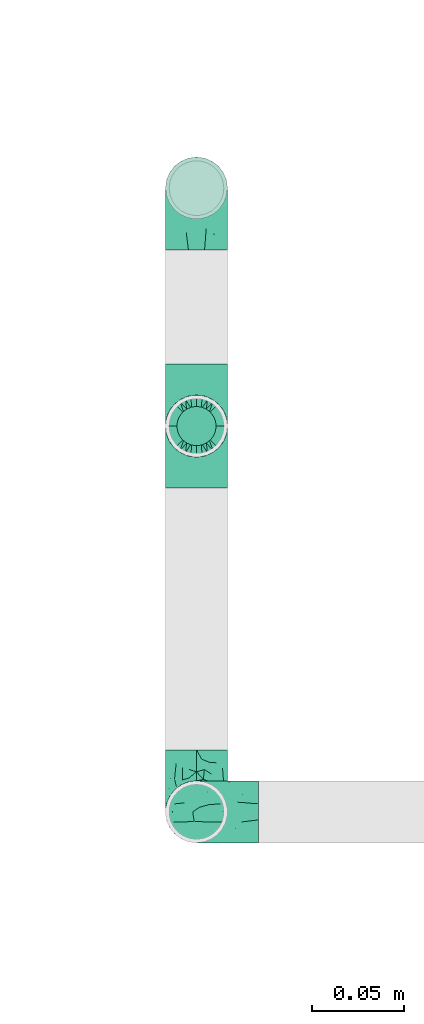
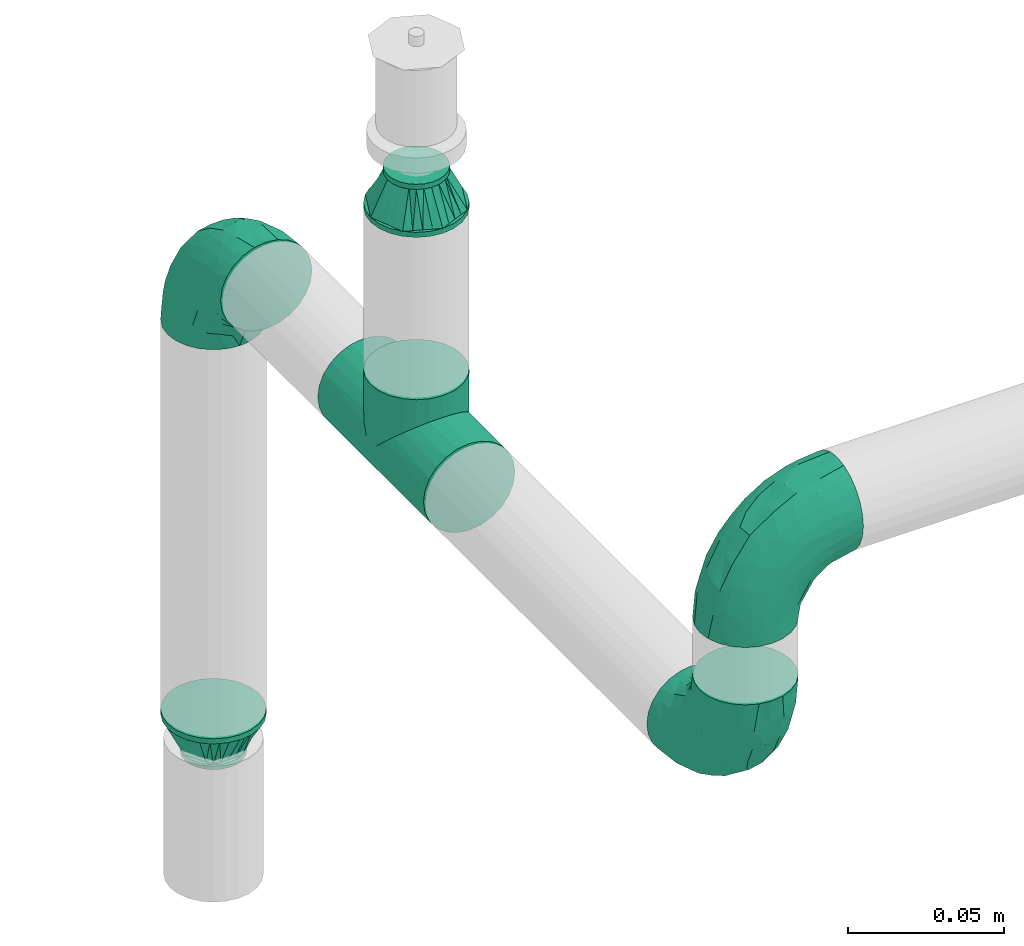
# One storey, part 117 of 157: 6 flow fittings.
"""IFC2X3 building model written with IfcOpenShell, lengths in millimetres."""

from ifc_helpers import new_model, entity, si_unit, converted_unit, derived_unit, direction, frame, origin_with_axes, place, context, subcontext, project, spatial, open_shell, surface_model, source, transform, mapped, type_object, element, save


model = new_model("IFC2X3")

# Units and contexts
model_context = context("Model", 3, precision=0.01, world=frame((0.0, 4.29681676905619e-09, 0.0)), true_north=direction((4.01073788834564e-13, 1.0)))
plan_context = context("Plan", 3, precision=0.01, world=frame((0.0, 4.29681676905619e-09, 0.0)), true_north=direction((4.01073788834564e-13, 1.0)))
body_context = subcontext(model_context, "Body", "Model", "MODEL_VIEW")
ifc_project = project(units=[converted_unit("PLANEANGLEUNIT", "DEGREE", entity("IfcPositiveLengthMeasure", 0.0174532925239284), si_unit("PLANEANGLEUNIT", "RADIAN"), dimensions=[0, 0, 0, 0, 0, 0, 0]), si_unit("AREAUNIT", "SQUARE_METRE"), si_unit("LENGTHUNIT", "METRE", prefix="MILLI"), si_unit("MASSUNIT", "GRAM", prefix="KILO"), si_unit("POWERUNIT", "WATT"), si_unit("PRESSUREUNIT", "PASCAL"), si_unit("FORCEUNIT", "NEWTON", prefix="KILO"), si_unit("ELECTRICCURRENTUNIT", "AMPERE"), si_unit("THERMODYNAMICTEMPERATUREUNIT", "DEGREE_CELSIUS"), si_unit("TIMEUNIT", "SECOND"), si_unit("VOLUMEUNIT", "CUBIC_METRE"), derived_unit("LINEARVELOCITYUNIT", [(si_unit("LENGTHUNIT", "METRE"), 1), (si_unit("TIMEUNIT", "SECOND"), -1)]), derived_unit("VOLUMETRICFLOWRATEUNIT", [(si_unit("VOLUMEUNIT", "CUBIC_METRE"), 1), (si_unit("TIMEUNIT", "SECOND"), -1)]), derived_unit("THERMALTRANSMITTANCEUNIT", [(si_unit("POWERUNIT", "WATT"), 1), (si_unit("THERMODYNAMICTEMPERATUREUNIT", "KELVIN"), -1), (si_unit("AREAUNIT", "SQUARE_METRE"), -1)])], contexts=[model_context, plan_context])

# Site, building, storey
site_placement = place(None, frame((0.0, -4.29681676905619e-09, 0.0), z_axis=(0.0, 0.0, 1.0), x_axis=(1.0, 0.0, 0.0)))
site = spatial("IfcSite", under=ifc_project, at=site_placement, CompositionType="ELEMENT")
building_placement = place(site_placement, frame((0.0, 4.29681676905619e-09, 0.0), z_axis=(0.0, 0.0, 1.0), x_axis=(1.0, 0.0, 0.0)))
building = spatial("IfcBuilding", under=site, at=building_placement, Name="mc-building", CompositionType="ELEMENT")
storey_placement = place(building_placement, frame((0.0, 0.0, 204000.0), z_axis=(0.0, 0.0, 1.0), x_axis=(1.0, 0.0, 0.0)))
storey = spatial("IfcBuildingStorey", under=building, at=storey_placement, Name="Nivå D", CompositionType="ELEMENT", Elevation=204000.0)

# Flow fittings
pipe_fitting_type_1 = type_object("IfcPipeFittingType", Name="magi_pipe_fe_tee_centric_90_NOR", PredefinedType="JUNCTION")
shared_shape_1 = source(origin_with_axes(), body_context, "Body", "SurfaceModel", [
    surface_model("IfcShellBasedSurfaceModel", [(-33.8, 4.37404, -16.32415), (-33.8, 0.0, -16.9), (-33.8, 16.32415, -4.37404), (-33.8, 8.45, -14.63583), (-33.8, 11.9501, -11.9501), (-33.8, 14.63583, -8.45), (-33.8, -16.9, 0.0), (-33.8, -11.9501, -11.9501), (-33.8, -14.63583, -8.45), (-33.8, -8.45, -14.63583), (-33.8, -4.37404, -16.32415), (-33.8, -16.32415, -4.37404), (-33.8, 14.63583, 8.45), (-33.8, 16.32415, 4.37404), (-33.8, -8.45, 14.63583), (-33.8, 8.45, 14.63583), (-33.8, 11.9501, 11.9501), (-33.8, 4.37404, 16.32415), (-33.8, 0.0, 16.9), (-33.8, -11.9501, 11.9501), (-33.8, -14.63583, 8.45), (-33.8, -16.32415, 4.37404), (-33.8, -4.37404, 16.32415), (-33.8, 16.9, 0.0), (33.8, 4.37404, -16.32415), (33.8, -16.9, 0.0), (33.8, 0.0, -16.9), (33.8, 14.63583, -8.45), (33.8, 8.45, -14.63583), (33.8, 16.32415, -4.37404), (33.8, 11.9501, -11.9501), (33.8, -16.32415, 4.37404), (33.8, -8.45, -14.63583), (33.8, -4.37404, -16.32415), (33.8, -11.9501, -11.9501), (33.8, -14.63583, -8.45), (33.8, -16.32415, -4.37404), (33.8, 16.32415, 4.37404), (33.8, 8.45, 14.63583), (33.8, 14.63583, 8.45), (33.8, 11.9501, 11.9501), (33.8, -8.45, 14.63583), (33.8, 4.37404, 16.32415), (33.8, -14.63583, 8.45), (33.8, -11.9501, 11.9501), (33.8, 0.0, 16.9), (33.8, -4.37404, 16.32415), (33.8, 16.9, 0.0), (16.28698, -16.28698, 4.51047), (16.9, -16.9, 0.0), (14.62704, -14.62704, 8.4652), (9.47213, -9.47213, 13.99602), (12.26343, -12.26343, 11.62834), (-16.9, -16.9, 0.0), (-16.28698, -16.28698, 4.51047), (-14.62704, -14.62704, 8.4652), (-12.26343, -12.26343, 11.62834), (-9.47213, -9.47213, 13.99602), (-6.42894, -6.42894, 15.62942), (6.42894, -6.42894, 15.62942), (3.24522, -3.24522, 16.58549), (0.0, 0.0, 16.9), (-3.24522, -3.24522, 16.58549), (3.24522, -3.24522, -16.58549), (0.0, 0.0, -16.9), (-3.24522, -3.24522, -16.58549), (-6.42894, -6.42894, -15.62942), (6.42894, -6.42894, -15.62942), (9.47213, -9.47213, -13.99602), (12.26343, -12.26343, -11.62834), (14.62704, -14.62704, -8.4652), (16.28698, -16.28698, -4.51047), (-9.47213, -9.47213, -13.99602), (-12.26343, -12.26343, -11.62834), (-16.28698, -16.28698, -4.51047), (-14.62704, -14.62704, -8.4652), (4.37404, -25.35, -16.32415), (-16.9, -25.35, 0.0), (0.0, -25.35, -16.9), (14.63583, -25.35, -8.45), (8.45, -25.35, -14.63583), (16.32415, -25.35, -4.37404), (11.9501, -25.35, -11.9501), (-11.9501, -25.35, -11.9501), (-8.45, -25.35, -14.63583), (-4.37404, -25.35, -16.32415), (-14.63583, -25.35, -8.45), (-16.32415, -25.35, -4.37404), (16.9, -25.35, 0.0), (8.45, -25.35, 14.63583), (16.32415, -25.35, 4.37404), (14.63583, -25.35, 8.45), (-8.45, -25.35, 14.63583), (11.9501, -25.35, 11.9501), (4.37404, -25.35, 16.32415), (-16.32415, -25.35, 4.37404), (-11.9501, -25.35, 11.9501), (-14.63583, -25.35, 8.45), (0.0, -25.35, 16.9), (-4.37404, -25.35, 16.32415)], [open_shell([[[0, 1, 2]], [[3, 0, 4]], [[0, 2, 5]], [[4, 0, 5]], [[6, 2, 1]], [[7, 8, 9]], [[1, 10, 9]], [[11, 6, 8]], [[1, 9, 8]], [[1, 8, 6]], [[6, 12, 2]], [[12, 13, 2]], [[14, 12, 6]], [[12, 14, 15]], [[16, 12, 15]], [[17, 15, 18]], [[19, 14, 20]], [[21, 20, 14]], [[22, 18, 14]], [[14, 6, 21]], [[14, 18, 15]], [[23, 2, 13]], [[24, 25, 26]], [[27, 24, 28]], [[27, 29, 24]], [[27, 28, 30]], [[31, 25, 24]], [[26, 32, 33]], [[26, 34, 32]], [[35, 25, 36]], [[35, 34, 26]], [[25, 35, 26]], [[24, 29, 31]], [[29, 37, 38]], [[38, 37, 39]], [[38, 31, 29]], [[38, 39, 40]], [[41, 38, 42]], [[43, 41, 44]], [[41, 43, 31]], [[41, 45, 46]], [[41, 31, 38]], [[42, 45, 41]], [[29, 47, 37]], [[31, 43, 48]], [[25, 31, 49]], [[49, 31, 48]], [[43, 50, 48]], [[44, 41, 51]], [[50, 43, 52]], [[51, 52, 44]], [[52, 43, 44]], [[53, 54, 21]], [[53, 21, 6]], [[21, 54, 20]], [[54, 55, 20]], [[56, 57, 19]], [[19, 20, 56]], [[19, 57, 14]], [[56, 20, 55]], [[14, 57, 58]], [[51, 41, 59]], [[60, 45, 61]], [[59, 46, 60]], [[46, 59, 41]], [[60, 46, 45]], [[61, 45, 42]], [[39, 37, 13]], [[16, 38, 40]], [[12, 40, 39]], [[42, 38, 15]], [[23, 37, 47]], [[62, 61, 18]], [[62, 22, 58]], [[22, 62, 18]], [[58, 22, 14]], [[61, 17, 18]], [[42, 17, 61]], [[15, 17, 42]], [[15, 38, 16]], [[12, 16, 40]], [[13, 12, 39]], [[37, 23, 13]], [[5, 27, 30]], [[23, 47, 29]], [[30, 28, 3]], [[27, 2, 29]], [[26, 33, 63]], [[26, 64, 24]], [[64, 26, 63]], [[28, 24, 0]], [[64, 0, 24]], [[4, 30, 3]], [[2, 27, 5]], [[5, 30, 4]], [[2, 23, 29]], [[65, 66, 10]], [[1, 0, 64]], [[1, 65, 10]], [[66, 9, 10]], [[0, 3, 28]], [[1, 64, 65]], [[63, 33, 67]], [[32, 34, 68]], [[69, 68, 34]], [[35, 70, 69]], [[69, 34, 35]], [[32, 68, 67]], [[36, 25, 49]], [[36, 71, 35]], [[71, 36, 49]], [[35, 71, 70]], [[72, 9, 66]], [[72, 7, 9]], [[7, 72, 73]], [[7, 73, 8]], [[74, 53, 11]], [[75, 74, 8]], [[74, 11, 8]], [[11, 53, 6]], [[75, 8, 73]], [[32, 67, 33]], [[76, 77, 78]], [[79, 76, 80]], [[79, 81, 76]], [[79, 80, 82]], [[77, 76, 81]], [[78, 83, 84]], [[84, 85, 78]], [[86, 77, 87]], [[83, 78, 86]], [[77, 86, 78]], [[81, 88, 77]], [[89, 88, 90]], [[89, 90, 91]], [[92, 77, 89]], [[89, 91, 93]], [[92, 89, 94]], [[95, 96, 97]], [[96, 95, 92]], [[92, 98, 99]], [[95, 77, 92]], [[94, 98, 92]], [[89, 77, 88]], [[77, 95, 53]], [[54, 53, 95]], [[97, 96, 56]], [[96, 92, 57]], [[95, 97, 54]], [[58, 92, 99]], [[55, 54, 97]], [[56, 55, 97]], [[58, 57, 92]], [[98, 61, 62]], [[58, 99, 62]], [[56, 96, 57]], [[62, 99, 98]], [[94, 60, 98]], [[89, 59, 94]], [[91, 90, 48]], [[52, 93, 91]], [[93, 51, 89]], [[49, 90, 88]], [[59, 60, 94]], [[51, 59, 89]], [[49, 48, 90]], [[50, 52, 91]], [[48, 50, 91]], [[51, 93, 52]], [[98, 60, 61]], [[88, 81, 49]], [[71, 49, 81]], [[79, 82, 69]], [[82, 80, 68]], [[81, 79, 71]], [[67, 80, 76]], [[70, 71, 79]], [[69, 70, 79]], [[67, 68, 80]], [[78, 64, 63]], [[67, 76, 63]], [[69, 82, 68]], [[63, 76, 78]], [[85, 65, 78]], [[84, 66, 85]], [[86, 87, 74]], [[86, 73, 83]], [[72, 84, 83]], [[53, 87, 77]], [[66, 65, 85]], [[72, 66, 84]], [[53, 74, 87]], [[75, 73, 86]], [[74, 75, 86]], [[72, 83, 73]], [[78, 65, 64]]])]),
])
flow_fitting_placement = place(storey_placement, frame((527500.0, 416470.2949, 2600.0), z_axis=(-1.0, 0.0, 0.0), x_axis=(0.0, 1.0, 0.0)))
element("IfcFlowFitting", 1, at=flow_fitting_placement, inside=storey, type_object=pipe_fitting_type_1, Name="magi_pipe_fe_tee_centric_90_NOR", context=body_context, shape_type="MappedRepresentation", body=[
    mapped(shared_shape_1, transform((0.0, 0.0, 0.0), scale=1.0)),
])
pipe_fitting_type_2 = type_object("IfcPipeFittingType", Name="magi_pipe_fe_elbow_short_001", PredefinedType="BEND")
shared_shape_2 = source(origin_with_axes(), body_context, "Body", "SurfaceModel", [
    surface_model("IfcShellBasedSurfaceModel", [(-33.8, 8.45, -14.63583), (-33.8, 4.37404, -16.32415), (-33.8, 11.9501, -11.9501), (-33.8, -11.9501, -11.9501), (-33.8, -14.63583, -8.45), (-33.8, -8.45, -14.63583), (-33.8, 0.0, -16.9), (-33.8, -4.37404, -16.32415), (-33.8, -4.37404, 16.32415), (-33.8, 0.0, 16.9), (-33.8, -8.45, 14.63583), (-33.8, 16.32415, -4.37404), (-33.8, 14.63583, -8.45), (-33.8, -16.32415, -4.37404), (-33.8, -16.9, 0.0), (-33.8, -16.32415, 4.37404), (-33.8, 11.9501, 11.9501), (-33.8, 14.63583, 8.45), (-33.8, 16.32415, 4.37404), (-33.8, 4.37404, 16.32415), (-33.8, 8.45, 14.63583), (-33.8, -14.63583, 8.45), (-33.8, -11.9501, 11.9501), (-33.8, 16.9, 0.0), (-11.9501, 33.8, -11.9501), (0.0, 33.8, -16.9), (-4.37404, 33.8, -16.32415), (-8.45, 33.8, -14.63583), (-14.63583, 33.8, -8.45), (-16.32415, 33.8, -4.37404), (14.63583, 33.8, -8.45), (8.45, 33.8, 14.63583), (16.32415, 33.8, -4.37404), (8.45, 33.8, -14.63583), (11.9501, 33.8, -11.9501), (4.37404, 33.8, -16.32415), (16.32415, 33.8, 4.37404), (16.9, 33.8, 0.0), (-11.9501, 33.8, 11.9501), (-16.32415, 33.8, 4.37404), (-14.63583, 33.8, 8.45), (-8.45, 33.8, 14.63583), (-4.37404, 33.8, 16.32415), (11.9501, 33.8, 11.9501), (14.63583, 33.8, 8.45), (0.0, 33.8, 16.9), (4.37404, 33.8, 16.32415), (-16.9, 33.8, 0.0), (-24.79389, -13.12945, 9.48721), (-22.19287, -9.75018, 12.59315), (-24.09897, -14.97035, 0.0), (-14.93934, -10.76256, 8.5297), (-22.46095, -14.75051, 5.27077), (14.75051, 22.46094, 5.27077), (11.9251, 13.23888, 4.33236), (13.04069, 14.39795, 0.0), (7.71387, 13.68847, 11.55891), (9.75018, 22.19287, 12.59315), (4.10169, 13.0571, 14.04018), (-24.84007, -6.39063, 15.2048), (-25.81779, -2.23879, 16.61097), (-23.66549, 2.59054, 16.87119), (-26.50418, 14.06512, 11.08152), (-24.21253, 17.66365, 7.72657), (-29.58514, 15.86957, 7.00283), (-6.17382, -7.5455, 0.0), (-13.23888, -11.9251, 4.33236), (-14.39795, -13.04069, 0.0), (-17.81434, 18.87373, 11.97104), (-6.30846, 29.15138, 15.82987), (-2.31622, 25.28002, 16.85849), (-29.23923, 10.23435, 13.77053), (-1.45439, -2.85688, 7.61475), (-0.28326, 0.34872, 10.09509), (-5.74484, -4.04709, 10.4122), (-4.41137, 11.31918, 16.59407), (-8.39727, 3.10034, 15.7812), (-1.72649, 9.1306, 15.53089), (-17.39909, 24.75344, 7.64977), (-26.19233, 20.0512, 0.0), (-28.14518, 17.29657, 4.25857), (-26.05147, 6.6281, 15.96447), (-5.87354, 16.61944, 16.86968), (-12.51807, 12.51807, 16.48937), (-10.06312, 7.38516, 16.81295), (-3.01882, 3.01882, 13.81718), (-13.0571, -4.10169, 14.04018), (-16.82553, -0.15166, 16.38038), (10.76256, 14.93934, 8.5297), (13.12945, 24.79389, 9.48721), (6.39063, 24.84007, 15.2048), (2.23879, 25.81779, 16.61097), (-13.68847, -7.71387, 11.55891), (14.97035, 24.09897, 0.0), (-7.30894, 22.89991, 16.09489), (-10.67958, 26.17414, 14.008), (-12.78295, 18.26924, 15.06066), (-13.88562, 22.45231, 12.93244), (-18.04944, 15.16501, 14.04434), (-23.11658, 20.08178, 4.02986), (-21.84989, 21.84989, 0.0), (-18.55817, 25.48277, 3.93065), (-13.95142, 26.94732, 11.03289), (-18.57098, 7.23906, 16.59756), (-16.58335, 4.14122, 16.89279), (-17.96666, 11.46709, 15.63151), (-9.84453, 17.54304, 16.18938), (0.15166, 16.82553, 16.38038), (-23.27207, 11.47201, 14.23154), (3.84842, 5.86994, 10.70473), (-8.0212, -7.54413, 7.93275), (1.00345, -2.19508, 4.57414), (5.13203, 3.01004, 5.90201), (5.24161, 1.7543, 2.53265), (8.70457, 7.04947, 3.99182), (-20.0512, 26.19233, 0.0), (8.4852, 8.76699, 7.09296), (-4.55488, -6.72064, 4.90681), (2.05031, -2.05031, 0.0), (7.5455, 6.17382, 0.0), (-26.75399, 2.1369, -16.845), (-14.61995, 24.73803, -11.27736), (-28.45274, -13.45335, -9.81895), (-26.00469, 6.63555, -15.96645), (-23.06726, 20.04573, -4.26202), (-13.80647, -4.26506, -14.17873), (-14.67501, -0.21081, -16.07388), (-6.7902, -0.2828, -13.8478), (-24.53586, 11.08096, -14.13417), (-26.72048, 14.00837, -11.05776), (10.0967, 24.44989, -12.75976), (5.83237, 21.40218, -15.03047), (6.66249, 28.54238, -15.38093), (-20.38182, 15.48705, -12.74596), (12.53268, 21.23441, -9.15363), (12.54494, 15.67504, -5.54878), (9.7522, 12.89279, -8.66343), (-15.65186, 19.64213, -13.01327), (-12.03528, 20.66498, -14.67665), (-15.61907, 15.61906, -14.83879), (-25.56551, -15.26206, 0.0), (-24.65452, -15.12934, -5.50955), (13.45335, 28.45274, -9.81895), (15.12934, 24.65452, -5.50955), (-7.35442, -8.31014, -5.65563), (-15.67504, -12.54494, -5.54878), (-24.44989, -10.0967, -12.75976), (0.16522, 0.41303, -9.71728), (-5.70658, -5.33066, -8.89288), (-5.13869, -2.37198, -11.53565), (-21.23441, -12.53268, -9.15363), (0.71146, 7.93863, -14.09382), (0.21081, 14.67501, -16.07388), (3.49291, 14.42772, -14.76381), (-24.89911, -2.13088, -16.591), (-28.54238, -6.66249, -15.38093), (-18.44386, -7.71663, -13.26957), (2.13088, 24.89911, -16.591), (-28.64342, 17.44413, -2.89318), (1.70017, -1.28722, -5.09504), (-16.57067, 26.81947, -7.36596), (-17.69055, 27.4263, -3.76405), (-12.89279, -9.7522, -8.66343), (-5.96611, 5.96611, -15.95814), (-20.53709, 20.09345, -8.28985), (-2.1369, 26.75399, -16.845), (-6.89872, 24.58781, -16.02578), (-10.60739, 26.53157, -13.98044), (-21.40218, -5.83237, -15.03047), (2.93192, 5.89627, -11.55917), (6.89393, 12.61842, -11.82233), (5.58056, 5.95325, -8.79455), (-3.99512, 18.61798, -16.89635), (8.31014, 7.35442, -5.65563), (-9.1383, 9.86148, -16.89041), (-9.99983, 16.02119, -16.39699), (-16.68576, 9.78031, -16.34199), (-27.01915, 16.61158, -7.12979), (15.26206, 25.56551, 0.0), (-18.61798, 3.99512, -16.89635), (-19.37495, 27.82495, 0.0), (-12.61842, -6.89393, -11.82233), (-18.84705, 19.14018, -10.96545)], [open_shell([[[0, 1, 2]], [[3, 4, 5]], [[6, 7, 5]], [[8, 9, 10]], [[1, 6, 2]], [[11, 12, 2]], [[4, 2, 6]], [[2, 13, 10]], [[5, 4, 6]], [[2, 4, 13]], [[14, 15, 13]], [[11, 2, 16]], [[11, 17, 18]], [[11, 16, 17]], [[19, 20, 16]], [[16, 2, 10]], [[19, 16, 10]], [[21, 22, 15]], [[22, 13, 15]], [[22, 10, 13]], [[10, 9, 19]], [[11, 18, 23]], [[24, 25, 26]], [[24, 26, 27]], [[24, 28, 29]], [[25, 24, 30]], [[31, 32, 24]], [[33, 30, 34]], [[33, 35, 25]], [[25, 30, 33]], [[32, 30, 24]], [[32, 36, 37]], [[38, 24, 29]], [[39, 40, 29]], [[40, 38, 29]], [[38, 41, 42]], [[38, 31, 24]], [[31, 38, 42]], [[36, 43, 44]], [[36, 32, 43]], [[31, 45, 46]], [[32, 31, 43]], [[42, 45, 31]], [[39, 29, 47]], [[22, 48, 49]], [[15, 14, 50]], [[51, 48, 52]], [[53, 54, 55]], [[48, 22, 21]], [[15, 52, 21]], [[56, 57, 58]], [[49, 10, 22]], [[49, 59, 10]], [[9, 60, 61]], [[62, 63, 64]], [[65, 66, 67]], [[57, 43, 31]], [[62, 68, 63]], [[42, 69, 70]], [[20, 71, 16]], [[8, 60, 9]], [[72, 73, 74]], [[75, 76, 77]], [[16, 62, 17]], [[40, 39, 78]], [[79, 23, 80]], [[64, 18, 17]], [[9, 61, 19]], [[19, 81, 20]], [[82, 83, 84]], [[74, 85, 86]], [[59, 86, 87]], [[88, 89, 57]], [[90, 31, 46]], [[44, 53, 36]], [[46, 45, 91]], [[54, 53, 88]], [[44, 89, 53]], [[92, 86, 49]], [[89, 44, 43]], [[10, 59, 8]], [[53, 55, 93]], [[93, 36, 53]], [[66, 52, 67]], [[94, 82, 70]], [[95, 96, 94]], [[97, 98, 96]], [[79, 99, 100]], [[41, 38, 95]], [[101, 100, 99]], [[68, 78, 63]], [[42, 41, 69]], [[23, 18, 80]], [[95, 94, 69]], [[78, 101, 99]], [[38, 102, 95]], [[70, 45, 42]], [[97, 95, 102]], [[15, 50, 52]], [[90, 57, 31]], [[57, 90, 58]], [[81, 19, 61]], [[103, 104, 84]], [[105, 81, 103]], [[38, 40, 102]], [[106, 96, 83]], [[94, 106, 82]], [[91, 70, 107]], [[71, 62, 16]], [[62, 108, 98]], [[86, 59, 49]], [[67, 52, 50]], [[60, 59, 87]], [[92, 49, 51]], [[86, 85, 76]], [[91, 90, 46]], [[37, 36, 93]], [[107, 77, 58]], [[107, 58, 90]], [[58, 85, 109]], [[110, 74, 92]], [[72, 74, 110]], [[66, 51, 52]], [[72, 111, 112]], [[113, 114, 112]], [[56, 88, 57]], [[52, 48, 21]], [[49, 48, 51]], [[57, 89, 43]], [[53, 89, 88]], [[103, 81, 61]], [[71, 81, 108]], [[18, 64, 80]], [[63, 78, 99]], [[47, 115, 101]], [[101, 115, 100]], [[40, 78, 102]], [[68, 102, 78]], [[97, 96, 95]], [[105, 98, 108]], [[103, 84, 83]], [[107, 70, 82]], [[76, 84, 87]], [[82, 84, 75]], [[70, 91, 45]], [[90, 91, 107]], [[59, 60, 8]], [[61, 60, 87]], [[73, 85, 74]], [[109, 112, 116]], [[103, 61, 104]], [[105, 103, 83]], [[96, 105, 83]], [[81, 105, 108]], [[96, 98, 105]], [[62, 98, 68]], [[61, 87, 104]], [[87, 84, 104]], [[86, 76, 87]], [[77, 76, 85]], [[58, 77, 85]], [[75, 77, 107]], [[82, 75, 107]], [[76, 75, 84]], [[81, 71, 20]], [[62, 71, 108]], [[95, 69, 41]], [[70, 69, 94]], [[62, 64, 17]], [[80, 63, 99]], [[63, 80, 64]], [[80, 99, 79]], [[66, 65, 117]], [[110, 66, 117]], [[112, 114, 116]], [[118, 117, 65]], [[110, 92, 51]], [[112, 111, 113]], [[119, 55, 54]], [[74, 86, 92]], [[58, 109, 56]], [[116, 56, 109]], [[66, 110, 51]], [[72, 110, 117]], [[111, 72, 117]], [[73, 112, 109]], [[117, 118, 111]], [[113, 111, 118]], [[118, 119, 113]], [[114, 119, 54]], [[119, 114, 113]], [[116, 54, 88]], [[54, 116, 114]], [[116, 88, 56]], [[112, 73, 72]], [[85, 73, 109]], [[78, 39, 101]], [[47, 101, 39]], [[102, 68, 97]], [[97, 68, 98]], [[82, 106, 83]], [[94, 96, 106]], [[1, 120, 6]], [[28, 24, 121]], [[3, 122, 4]], [[0, 123, 1]], [[100, 124, 79]], [[125, 126, 127]], [[128, 2, 129]], [[130, 131, 132]], [[128, 129, 133]], [[134, 135, 136]], [[137, 138, 139]], [[128, 0, 2]], [[67, 140, 141]], [[134, 142, 143]], [[141, 13, 4]], [[144, 65, 145]], [[146, 3, 5]], [[147, 148, 149]], [[145, 141, 150]], [[151, 152, 153]], [[154, 7, 6]], [[5, 155, 146]], [[150, 146, 156]], [[155, 5, 7]], [[143, 135, 134]], [[35, 157, 25]], [[23, 79, 158]], [[148, 159, 144]], [[160, 161, 29]], [[145, 162, 144]], [[163, 152, 151]], [[29, 28, 160]], [[121, 164, 160]], [[33, 34, 130]], [[25, 165, 26]], [[26, 165, 166]], [[142, 34, 30]], [[24, 27, 167]], [[124, 161, 164]], [[157, 35, 132]], [[155, 154, 168]], [[123, 0, 128]], [[169, 170, 171]], [[172, 157, 152]], [[26, 166, 27]], [[132, 35, 33]], [[142, 130, 34]], [[168, 154, 126]], [[136, 135, 173]], [[133, 137, 139]], [[2, 12, 129]], [[170, 131, 130]], [[30, 32, 143]], [[172, 174, 175]], [[176, 123, 128]], [[158, 177, 11]], [[135, 55, 119]], [[167, 27, 166]], [[175, 166, 172]], [[137, 167, 138]], [[122, 141, 4]], [[140, 14, 13]], [[32, 37, 178]], [[170, 130, 134]], [[152, 157, 131]], [[165, 157, 172]], [[153, 170, 151]], [[152, 163, 174]], [[168, 125, 156]], [[122, 146, 150]], [[120, 154, 6]], [[179, 174, 126]], [[179, 126, 154]], [[126, 163, 127]], [[162, 145, 150]], [[140, 13, 141]], [[32, 178, 143]], [[55, 143, 178]], [[177, 129, 12]], [[128, 133, 139]], [[176, 128, 139]], [[120, 123, 179]], [[121, 160, 28]], [[161, 100, 180]], [[166, 175, 138]], [[121, 24, 167]], [[161, 47, 29]], [[79, 124, 158]], [[124, 164, 177]], [[161, 124, 100]], [[136, 171, 170]], [[127, 163, 151]], [[147, 171, 159]], [[148, 144, 162]], [[127, 151, 169]], [[127, 181, 125]], [[129, 177, 164]], [[12, 11, 177]], [[159, 65, 144]], [[67, 141, 145]], [[143, 55, 135]], [[135, 119, 173]], [[123, 120, 1]], [[154, 120, 179]], [[157, 165, 25]], [[166, 165, 172]], [[172, 152, 174]], [[176, 139, 175]], [[126, 174, 163]], [[176, 174, 179]], [[174, 176, 175]], [[123, 176, 179]], [[150, 181, 162]], [[127, 149, 181]], [[181, 148, 162]], [[159, 148, 147]], [[171, 136, 173]], [[170, 134, 136]], [[159, 171, 173]], [[171, 147, 169]], [[169, 147, 149]], [[151, 170, 169]], [[164, 182, 129]], [[182, 121, 137]], [[181, 149, 148]], [[169, 149, 127]], [[182, 137, 133]], [[167, 137, 121]], [[166, 138, 167]], [[175, 139, 138]], [[129, 182, 133]], [[121, 182, 164]], [[161, 160, 164]], [[47, 161, 180]], [[177, 158, 124]], [[23, 158, 11]], [[130, 132, 33]], [[157, 132, 131]], [[143, 142, 30]], [[130, 142, 134]], [[154, 155, 7]], [[146, 155, 168]], [[146, 122, 3]], [[141, 122, 150]], [[152, 131, 153]], [[159, 119, 118]], [[67, 145, 65]], [[170, 153, 131]], [[119, 159, 173]], [[159, 118, 65]], [[156, 125, 181]], [[126, 125, 168]], [[150, 156, 181]], [[168, 156, 146]]])]),
])
for number, where, z_axis, x_axis, name in (
    (2, (527500.0, 416600.00006, 2600.0), (1.0, 0.0, 0.0), (0.0, 0.0, 1.0), "magi_pipe_fe_elbow_short_001"),
    (3, (527500.0, 416260.00006, 2600.0), (-1.0, 0.0, 0.0), (0.0, -1.0, 0.0), "magi_pipe_fe_elbow_short_001"),
    (4, (527500.0, 416260.00006, 2690.0), (0.0, 1.0, 0.0), (0.0, 0.0, 1.0), "magi_pipe_fe_elbow_short_001"),
):
    element("IfcFlowFitting", number, at=place(storey_placement, frame(where, z_axis=z_axis, x_axis=x_axis)), inside=storey, type_object=pipe_fitting_type_2, Name=name, context=body_context, shape_type="MappedRepresentation", body=[
        mapped(shared_shape_2, transform((0.0, 0.0, 0.0), scale=1.0)),
    ])
pipe_fitting_type_3 = type_object("IfcPipeFittingType", Name="magi_pipe_fe_reducer_centric_short_NOR", PredefinedType="TRANSITION")
shared_shape_3 = source(origin_with_axes(), body_context, "Body", "SurfaceModel", [
    surface_model("IfcShellBasedSurfaceModel", [(-2.0, -7.56604, -7.56604), (-2.0, -10.33541, -2.76936), (-2.0, -5.35, -9.26647), (-2.0, 5.35, -9.26647), (-2.0, 10.33541, -2.76936), (-2.0, 7.56604, -7.56604), (12.4, 11.9501, 11.9501), (12.4, 0.0, 16.9), (12.4, 11.9501, -11.9501), (12.4, 16.9, 0.0), (0.0, -10.7, 0.0), (0.0, -5.35, 9.26647), (0.0, -5.35, -9.26647), (0.0, 10.7, 0.0), (12.4, 15.66253, -2.98753), (12.4, 8.96258, -13.18758), (0.0, 6.6875, -6.94985), (12.4, -15.66253, -2.98753), (12.4, -16.9, 0.0), (12.4, 5.97505, -14.42505), (0.0, 5.35, -9.26647), (12.4, 14.42505, -5.97505), (0.0, 8.025, -4.63324), (0.0, 9.3625, -2.31662), (0.0, -9.3625, -2.31662), (0.0, -8.025, -4.63324), (12.4, -14.42505, -5.97505), (12.4, 13.18758, -8.96258), (12.4, -13.18758, -8.96258), (12.4, -11.9501, -11.9501), (0.0, -6.6875, -6.94985), (12.4, -8.96258, -13.18758), (12.4, -5.97505, -14.42505), (12.4, -15.66253, 2.98753), (12.4, -8.96258, 13.18758), (0.0, -6.6875, 6.94985), (12.4, -11.9501, 11.9501), (12.4, 15.66253, 2.98753), (12.4, -5.97505, 14.42505), (12.4, -14.42505, 5.97505), (0.0, -8.025, 4.63324), (0.0, -9.3625, 2.31662), (0.0, 9.3625, 2.31662), (0.0, 8.025, 4.63324), (12.4, 14.42505, 5.97505), (12.4, -13.18758, 8.96258), (12.4, 13.18758, 8.96258), (0.0, 6.6875, 6.94985), (12.4, 8.96258, 13.18758), (0.0, 5.35, 9.26647), (12.4, 5.97505, 14.42505), (14.4, 4.37404, -16.32415), (14.4, 8.45, -14.63583), (14.4, 11.9501, -11.9501), (14.4, -8.45, -14.63583), (14.4, 16.32415, -4.37404), (14.4, 16.32415, 4.37404), (14.4, 14.63583, -8.45), (14.4, 0.0, -16.9), (14.4, -4.37404, -16.32415), (14.4, -11.9501, -11.9501), (14.4, -16.32415, -4.37404), (14.4, -14.63583, -8.45), (14.4, -16.32415, 4.37404), (14.4, 16.9, 0.0), (14.4, 14.63583, 8.45), (14.4, 11.9501, 11.9501), (14.4, 4.37404, 16.32415), (14.4, 8.45, 14.63583), (14.4, 0.0, 16.9), (14.4, -14.63583, 8.45), (14.4, -16.9, 0.0), (14.4, -8.45, 14.63583), (14.4, -11.9501, 11.9501), (14.4, -4.37404, 16.32415), (12.4, 4.37404, 16.32415), (12.4, -14.63583, 8.45), (12.4, 16.32415, 4.37404), (12.4, 8.45, 14.63583), (12.4, 14.63583, 8.45), (12.4, -8.45, 14.63583), (12.4, -4.37404, 16.32415), (12.4, -16.32415, 4.37404), (12.4, -16.32415, -4.37404), (12.4, -8.45, -14.63583), (12.4, 16.32415, -4.37404), (12.4, 14.63583, -8.45), (12.4, 8.45, -14.63583), (12.4, 4.37404, -16.32415), (12.4, 0.0, -16.9), (12.4, -14.63583, -8.45), (12.4, -4.37404, -16.32415), (-2.0, 2.76936, 10.33541), (-2.0, 0.0, 10.7), (-2.0, 5.35, 9.26647), (-2.0, 7.56604, 7.56604), (-2.0, 9.26647, 5.35), (-2.0, 10.33541, 2.76936), (-2.0, -10.33541, 2.76936), (-2.0, -2.76936, 10.33541), (-2.0, -7.56604, 7.56604), (-2.0, -5.35, 9.26647), (-2.0, -9.26647, 5.35), (-2.0, -10.7, 0.0), (-2.0, 9.26647, -5.35), (-2.0, 2.76936, -10.33541), (-2.0, -9.26647, -5.35), (-2.0, 0.0, -10.7), (-2.0, -2.76936, -10.33541), (-2.0, 10.7, 0.0), (0.0, 0.0, -10.7), (0.0, 2.76936, -10.33541), (0.0, 10.33541, -2.76936), (0.0, 7.56604, -7.56604), (0.0, -10.33541, -2.76936), (0.0, 9.26647, -5.35), (0.0, 0.0, 10.7), (0.0, -2.76936, -10.33541), (0.0, -7.56604, -7.56604), (0.0, -9.26647, -5.35), (0.0, 10.33541, 2.76936), (0.0, 9.26647, 5.35), (0.0, 7.56604, 7.56604), (0.0, 2.76936, 10.33541), (0.0, -7.56604, 7.56604), (0.0, -10.33541, 2.76936), (0.0, -9.26647, 5.35), (0.0, -2.76936, 10.33541), (0.0, 2.675, -9.26647), (0.0, -2.675, -9.26647), (12.4, 2.98753, -15.66253), (0.0, 0.0, -9.26647), (12.4, -2.98753, -15.66253), (0.0, -2.675, 9.26647), (0.0, 2.675, 9.26647), (12.4, -2.98753, 15.66253), (0.0, 0.0, 9.26647), (12.4, 2.98753, 15.66253)], [open_shell([[[0, 1, 2]], [[3, 4, 5]], [[6, 7, 8]], [[8, 9, 6]], [[10, 11, 12]], [[13, 9, 14]], [[15, 16, 8]], [[17, 18, 10]], [[15, 19, 20]], [[21, 22, 23]], [[24, 25, 26]], [[22, 21, 27]], [[28, 26, 25]], [[29, 30, 31]], [[12, 32, 31]], [[10, 18, 33]], [[34, 35, 36]], [[37, 9, 13]], [[34, 38, 11]], [[39, 40, 41]], [[42, 43, 44]], [[40, 39, 45]], [[46, 44, 43]], [[6, 47, 48]], [[49, 50, 48]], [[51, 52, 53]], [[54, 51, 53]], [[53, 55, 56]], [[55, 53, 57]], [[53, 56, 54]], [[58, 54, 59]], [[58, 51, 54]], [[60, 61, 62]], [[61, 60, 54]], [[54, 63, 61]], [[56, 55, 64]], [[56, 65, 66]], [[56, 66, 67]], [[67, 63, 54]], [[67, 66, 68]], [[63, 67, 69]], [[69, 70, 63]], [[71, 61, 63]], [[70, 72, 73]], [[70, 69, 72]], [[72, 69, 74]], [[54, 56, 67]], [[75, 76, 7]], [[77, 75, 78]], [[6, 79, 77]], [[6, 77, 78]], [[76, 75, 77]], [[80, 76, 36]], [[80, 81, 7]], [[7, 76, 80]], [[82, 76, 77]], [[82, 83, 18]], [[82, 77, 84]], [[77, 85, 8]], [[8, 85, 86]], [[8, 87, 88]], [[84, 77, 8]], [[88, 89, 8]], [[83, 29, 90]], [[29, 83, 84]], [[84, 89, 91]], [[83, 82, 84]], [[8, 89, 84]], [[85, 77, 9]], [[83, 61, 18]], [[90, 62, 83]], [[54, 29, 84]], [[90, 29, 60]], [[59, 84, 91]], [[83, 62, 61]], [[61, 71, 18]], [[59, 54, 84]], [[60, 29, 54]], [[60, 62, 90]], [[58, 59, 91]], [[91, 89, 58]], [[88, 51, 89]], [[87, 52, 88]], [[57, 8, 86]], [[87, 8, 53]], [[55, 86, 85]], [[87, 53, 52]], [[52, 51, 88]], [[64, 55, 85]], [[57, 86, 55]], [[57, 53, 8]], [[9, 64, 85]], [[89, 51, 58]], [[77, 56, 9]], [[79, 65, 77]], [[68, 6, 78]], [[79, 6, 66]], [[67, 78, 75]], [[77, 65, 56]], [[56, 64, 9]], [[67, 68, 78]], [[66, 6, 68]], [[66, 65, 79]], [[69, 67, 75]], [[75, 7, 69]], [[81, 74, 7]], [[80, 72, 81]], [[70, 36, 76]], [[80, 36, 73]], [[63, 76, 82]], [[80, 73, 72]], [[72, 74, 81]], [[71, 63, 82]], [[70, 76, 63]], [[70, 73, 36]], [[18, 71, 82]], [[7, 74, 69]], [[92, 1, 93]], [[94, 1, 92]], [[95, 96, 97]], [[95, 97, 94]], [[98, 93, 1]], [[99, 100, 101]], [[99, 93, 100]], [[100, 98, 102]], [[93, 98, 100]], [[98, 1, 103]], [[94, 97, 1]], [[1, 97, 4]], [[5, 4, 104]], [[4, 3, 1]], [[105, 1, 3]], [[1, 0, 106]], [[2, 107, 108]], [[2, 1, 105]], [[105, 107, 2]], [[4, 97, 109]], [[20, 110, 111]], [[112, 20, 113]], [[114, 20, 112]], [[112, 113, 115]], [[116, 114, 112]], [[110, 12, 117]], [[110, 20, 12]], [[118, 114, 119]], [[114, 118, 12]], [[20, 114, 12]], [[112, 13, 120]], [[120, 121, 122]], [[120, 122, 123]], [[116, 112, 123]], [[123, 122, 49]], [[116, 124, 114]], [[125, 124, 126]], [[10, 114, 125]], [[124, 127, 11]], [[125, 114, 124]], [[127, 124, 116]], [[123, 112, 120]], [[1, 114, 103]], [[106, 119, 1]], [[12, 0, 2]], [[106, 0, 118]], [[117, 2, 108]], [[1, 119, 114]], [[114, 10, 103]], [[117, 12, 2]], [[118, 0, 12]], [[118, 119, 106]], [[110, 117, 108]], [[108, 107, 110]], [[105, 111, 107]], [[3, 20, 105]], [[115, 5, 104]], [[3, 5, 113]], [[112, 104, 4]], [[3, 113, 20]], [[20, 111, 105]], [[13, 112, 4]], [[115, 104, 112]], [[115, 113, 5]], [[109, 13, 4]], [[107, 111, 110]], [[97, 120, 109]], [[96, 121, 97]], [[49, 95, 94]], [[96, 95, 122]], [[123, 94, 92]], [[97, 121, 120]], [[120, 13, 109]], [[123, 49, 94]], [[122, 95, 49]], [[122, 121, 96]], [[116, 123, 92]], [[92, 93, 116]], [[99, 127, 93]], [[101, 11, 99]], [[126, 100, 102]], [[101, 100, 124]], [[125, 102, 98]], [[101, 124, 11]], [[11, 127, 99]], [[10, 125, 98]], [[126, 102, 125]], [[126, 124, 100]], [[103, 10, 98]], [[93, 127, 116]], [[18, 7, 36]], [[18, 29, 8]], [[89, 8, 29]], [[18, 8, 7]], [[13, 11, 49]], [[13, 20, 12]], [[13, 12, 11]], [[24, 26, 17]], [[10, 24, 17]], [[16, 15, 20]], [[30, 12, 31]], [[23, 14, 21]], [[19, 128, 20]], [[27, 8, 16]], [[32, 12, 129]], [[30, 28, 25]], [[130, 131, 128]], [[129, 132, 32]], [[16, 22, 27]], [[13, 14, 23]], [[128, 19, 130]], [[130, 89, 131]], [[131, 132, 129]], [[89, 132, 131]], [[28, 30, 29]], [[42, 44, 37]], [[13, 42, 37]], [[35, 34, 11]], [[47, 49, 48]], [[41, 33, 39]], [[38, 133, 11]], [[45, 36, 35]], [[50, 49, 134]], [[47, 46, 43]], [[135, 136, 133]], [[134, 137, 50]], [[35, 40, 45]], [[10, 33, 41]], [[133, 38, 135]], [[135, 7, 136]], [[136, 137, 134]], [[7, 137, 136]], [[46, 47, 6]]])]),
])
for number, where, z_axis, x_axis, name in (
    (5, (527500.0, 416600.0, 2400.0), (0.0, 1.0, 0.0), (0.0, 0.0, 1.0), "magi_pipe_fe_reducer_centric_short_NOR"),
    (6, (527500.0, 416470.2949, 2703.04800000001), (0.0, 1.0, 0.0), (0.0, 0.0, -1.0), "magi_pipe_fe_reducer_centric_short_NOR"),
):
    element("IfcFlowFitting", number, at=place(storey_placement, frame(where, z_axis=z_axis, x_axis=x_axis)), inside=storey, type_object=pipe_fitting_type_3, Name=name, context=body_context, shape_type="MappedRepresentation", body=[
        mapped(shared_shape_3, transform((0.0, 0.0, 0.0), scale=1.0)),
    ])

save(model, "model.ifc")
